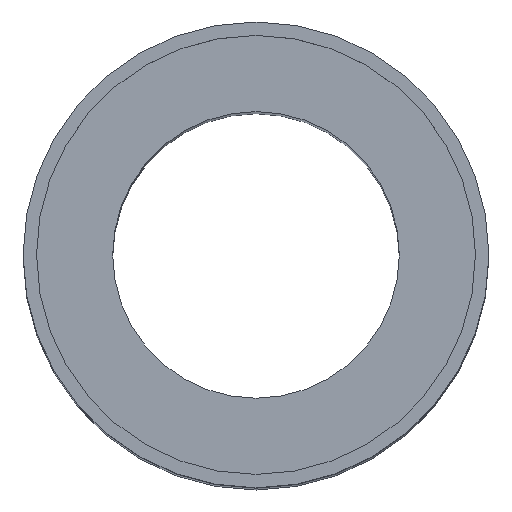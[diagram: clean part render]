
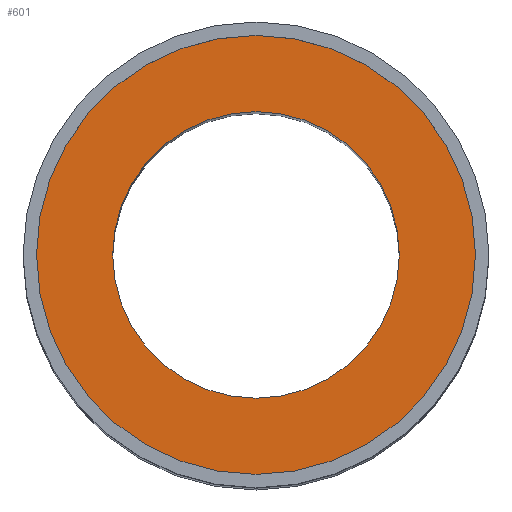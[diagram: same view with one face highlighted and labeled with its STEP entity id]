
A CAD part, top view. The second image highlights one B-rep face of the part: STEP entity #601.
In plain terms, the highlighted planar face has unit normal (0, 0, 1).
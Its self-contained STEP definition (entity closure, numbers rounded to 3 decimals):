
#135=CARTESIAN_POINT('',(-12.25,0.,69.0));
#136=VERTEX_POINT('',#135);
#152=CARTESIAN_POINT('',(12.25,0.,69.0));
#153=VERTEX_POINT('',#152);
#160=CARTESIAN_POINT('',(0.0,0.0,69.0));
#161=DIRECTION('',(0.0,0.0,-1.0));
#162=DIRECTION('',(-1.0,0.0,0.0));
#163=AXIS2_PLACEMENT_3D('',#160,#161,#162);
#164=CIRCLE('',#163,12.25);
#165=EDGE_CURVE('',#153,#136,#164,.T.);
#175=CARTESIAN_POINT('',(-8.,0.,69.0));
#176=VERTEX_POINT('',#175);
#185=CARTESIAN_POINT('',(8.,0.,69.0));
#186=VERTEX_POINT('',#185);
#187=CARTESIAN_POINT('',(0.0,0.0,69.0));
#188=DIRECTION('',(0.0,0.0,-1.0));
#189=DIRECTION('',(-1.0,0.0,0.0));
#190=AXIS2_PLACEMENT_3D('',#187,#188,#189);
#191=CIRCLE('',#190,8.);
#192=EDGE_CURVE('',#186,#176,#191,.T.);
#552=CARTESIAN_POINT('',(0.0,0.0,69.0));
#553=DIRECTION('',(0.0,0.0,-1.0));
#554=DIRECTION('',(-1.0,0.0,0.0));
#555=AXIS2_PLACEMENT_3D('',#552,#553,#554);
#556=CIRCLE('',#555,8.);
#557=EDGE_CURVE('',#176,#186,#556,.T.);
#582=CARTESIAN_POINT('',(0.0,0.0,69.0));
#583=DIRECTION('',(0.0,0.0,-1.0));
#584=DIRECTION('',(-1.0,0.0,0.0));
#585=AXIS2_PLACEMENT_3D('',#582,#583,#584);
#586=PLANE('',#585);
#587=ORIENTED_EDGE('',*,*,#165,.F.);
#588=CARTESIAN_POINT('',(0.0,0.0,69.0));
#589=DIRECTION('',(0.0,0.0,-1.0));
#590=DIRECTION('',(-1.0,0.0,0.0));
#591=AXIS2_PLACEMENT_3D('',#588,#589,#590);
#592=CIRCLE('',#591,12.25);
#593=EDGE_CURVE('',#136,#153,#592,.T.);
#594=ORIENTED_EDGE('',*,*,#593,.F.);
#595=EDGE_LOOP('',(#587,#594));
#596=FACE_OUTER_BOUND('',#595,.T.);
#597=ORIENTED_EDGE('',*,*,#192,.T.);
#598=ORIENTED_EDGE('',*,*,#557,.T.);
#599=EDGE_LOOP('',(#597,#598));
#600=FACE_BOUND('',#599,.T.);
#601=ADVANCED_FACE('',(#596,#600),#586,.F.);
